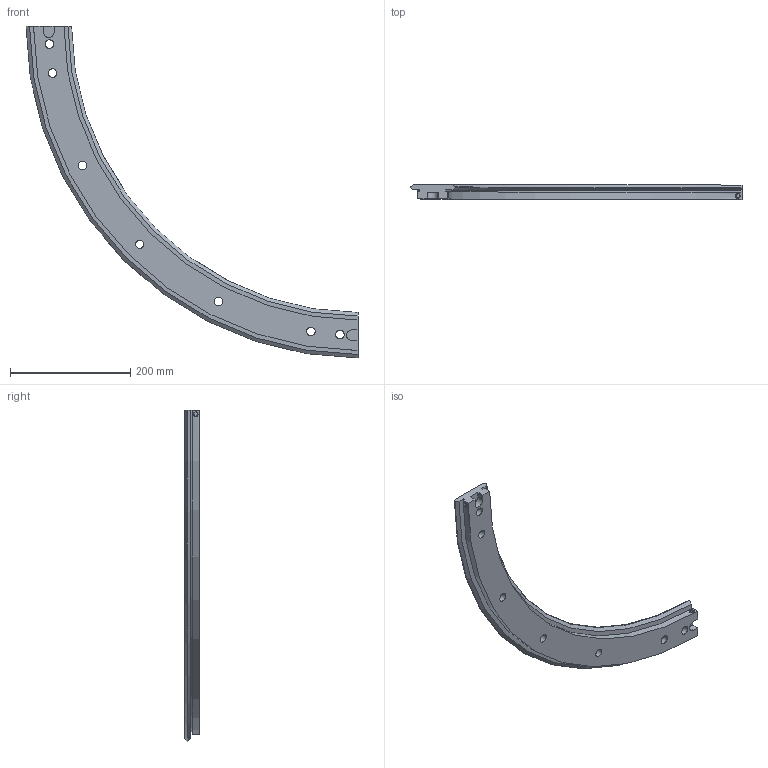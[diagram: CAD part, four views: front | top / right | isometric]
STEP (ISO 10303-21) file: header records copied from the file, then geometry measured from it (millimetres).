
FILE_DESCRIPTION( ( 'STEP AP203' ), '1' );
FILE_NAME( 'p:/temp/worker_32/temp/exporttempdir_3252_961_LlBEn/format_0/TR76 1033 R90.stp', '2021-09-17T07:41:35', ( 'License CC BY-ND 4.0' ), ( 'CADENAS' ), ' ', 'PARTsolutions', ' ' );
FILE_SCHEMA( ( 'CONFIG_CONTROL_DESIGN' ) );
Length unit declared in the file: millimetre
Products named in the file (1): _TR76 1033 R90
Bounding box: 551.8 x 24 x 551.8 mm (x, y, z)
Volume: 1054279.6 mm3; surface area: 174262.2 mm2
Topology: 1 solids, 1 shells, 83 faces, 200 edges, 134 vertices
Faces by surface type: plane 53, cylinder 24, cone 4, torus 2
Full cylindrical faces by diameter (mm): 8 x4, 14 x7, 20 x7
Entity records: 2674 total; most frequent: CARTESIAN_POINT 716, DIRECTION 384, ORIENTED_EDGE 360, EDGE_CURVE 180, AXIS2_PLACEMENT_3D 136, VERTEX_POINT 132, EDGE_LOOP 130, LINE 112
